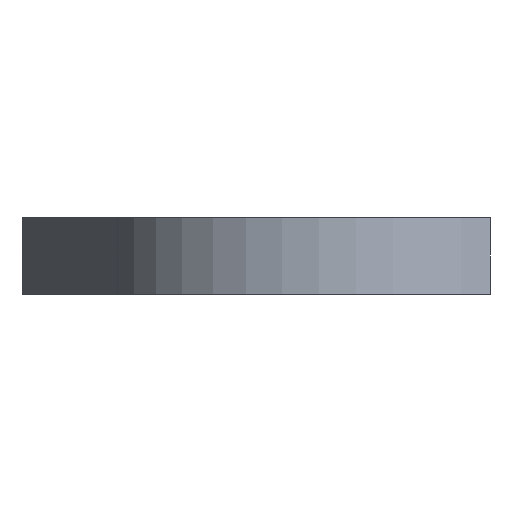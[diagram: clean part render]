
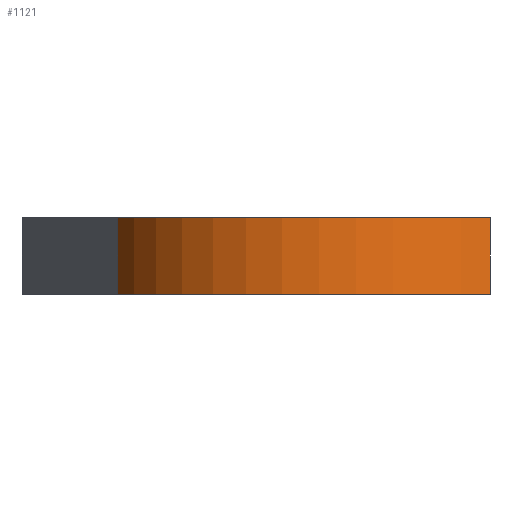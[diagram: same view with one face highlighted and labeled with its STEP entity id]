
A CAD part, left-side view. The second image highlights one B-rep face of the part: STEP entity #1121.
In plain terms, the highlighted cylindrical face has radius 4.794 mm (diameter 9.587 mm), a partial arc.
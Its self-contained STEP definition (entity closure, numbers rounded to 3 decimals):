
#55 = PLANE('',#56);
#56 = AXIS2_PLACEMENT_3D('',#57,#58,#59);
#57 = CARTESIAN_POINT('',(-11.367,2.875,0.));
#58 = DIRECTION('',(-0.406,0.914,0.));
#59 = DIRECTION('',(0.914,0.406,0.));
#83 = PLANE('',#84);
#84 = AXIS2_PLACEMENT_3D('',#85,#86,#87);
#85 = CARTESIAN_POINT('',(0.003,-0.53,1.6));
#86 = DIRECTION('',(-0.,-0.,-1.));
#87 = DIRECTION('',(-1.,0.,0.));
#137 = PLANE('',#138);
#138 = AXIS2_PLACEMENT_3D('',#139,#140,#141);
#139 = CARTESIAN_POINT('',(0.003,-0.53,0.));
#140 = DIRECTION('',(-0.,-0.,-1.));
#141 = DIRECTION('',(-1.,0.,0.));
#152 = EDGE_CURVE('',#153,#155,#157,.T.);
#153 = VERTEX_POINT('',#154);
#154 = CARTESIAN_POINT('',(-11.367,2.875,0.));
#155 = VERTEX_POINT('',#156);
#156 = CARTESIAN_POINT('',(-11.367,2.875,1.6));
#157 = SURFACE_CURVE('',#158,(#162,#169),.PCURVE_S1.);
#158 = LINE('',#159,#160);
#159 = CARTESIAN_POINT('',(-11.367,2.875,0.));
#160 = VECTOR('',#161,1.);
#161 = DIRECTION('',(0.,0.,1.));
#162 = PCURVE('',#55,#163);
#163 = DEFINITIONAL_REPRESENTATION('',(#164),#168);
#164 = LINE('',#165,#166);
#165 = CARTESIAN_POINT('',(0.,0.));
#166 = VECTOR('',#167,1.);
#167 = DIRECTION('',(0.,-1.));
#168 = ( GEOMETRIC_REPRESENTATION_CONTEXT(2) 
PARAMETRIC_REPRESENTATION_CONTEXT() REPRESENTATION_CONTEXT('2D SPACE',''
  ) );
#169 = PCURVE('',#170,#175);
#170 = CYLINDRICAL_SURFACE('',#171,4.794);
#171 = AXIS2_PLACEMENT_3D('',#172,#173,#174);
#172 = CARTESIAN_POINT('',(-9.625,-1.591,0.));
#173 = DIRECTION('',(-0.,-0.,-1.));
#174 = DIRECTION('',(1.,0.,-0.));
#175 = DEFINITIONAL_REPRESENTATION('',(#176),#180);
#176 = LINE('',#177,#178);
#177 = CARTESIAN_POINT('',(-1.943,0.));
#178 = VECTOR('',#179,1.);
#179 = DIRECTION('',(-0.,-1.));
#180 = ( GEOMETRIC_REPRESENTATION_CONTEXT(2) 
PARAMETRIC_REPRESENTATION_CONTEXT() REPRESENTATION_CONTEXT('2D SPACE',''
  ) );
#335 = VERTEX_POINT('',#336);
#336 = CARTESIAN_POINT('',(-13.117,-4.875,0.));
#350 = PLANE('',#351);
#351 = AXIS2_PLACEMENT_3D('',#352,#353,#354);
#352 = CARTESIAN_POINT('',(13.133,-4.875,0.));
#353 = DIRECTION('',(0.,-1.,0.));
#354 = DIRECTION('',(-1.,0.,0.));
#362 = EDGE_CURVE('',#153,#335,#363,.T.);
#363 = SURFACE_CURVE('',#364,(#369,#380),.PCURVE_S1.);
#364 = CIRCLE('',#365,4.794);
#365 = AXIS2_PLACEMENT_3D('',#366,#367,#368);
#366 = CARTESIAN_POINT('',(-9.625,-1.591,0.));
#367 = DIRECTION('',(0.,0.,1.));
#368 = DIRECTION('',(1.,0.,-0.));
#369 = PCURVE('',#137,#370);
#370 = DEFINITIONAL_REPRESENTATION('',(#371),#379);
#371 = ( BOUNDED_CURVE() B_SPLINE_CURVE(2,(#372,#373,#374,#375,#376,#377
,#378),.UNSPECIFIED.,.T.,.F.) B_SPLINE_CURVE_WITH_KNOTS((1,2,2,2,2,1),(
    -2.094,0.,2.094,4.189,6.283,
8.378),.UNSPECIFIED.) CURVE() GEOMETRIC_REPRESENTATION_ITEM() 
RATIONAL_B_SPLINE_CURVE((1.,0.5,1.,0.5,1.,0.5,1.)) REPRESENTATION_ITEM(
  '') );
#372 = CARTESIAN_POINT('',(4.834,-1.061));
#373 = CARTESIAN_POINT('',(4.834,7.242));
#374 = CARTESIAN_POINT('',(12.025,3.09));
#375 = CARTESIAN_POINT('',(19.216,-1.061));
#376 = CARTESIAN_POINT('',(12.025,-5.212));
#377 = CARTESIAN_POINT('',(4.834,-9.364));
#378 = CARTESIAN_POINT('',(4.834,-1.061));
#379 = ( GEOMETRIC_REPRESENTATION_CONTEXT(2) 
PARAMETRIC_REPRESENTATION_CONTEXT() REPRESENTATION_CONTEXT('2D SPACE',''
  ) );
#380 = PCURVE('',#170,#381);
#381 = DEFINITIONAL_REPRESENTATION('',(#382),#386);
#382 = LINE('',#383,#384);
#383 = CARTESIAN_POINT('',(-0.,0.));
#384 = VECTOR('',#385,1.);
#385 = DIRECTION('',(-1.,0.));
#386 = ( GEOMETRIC_REPRESENTATION_CONTEXT(2) 
PARAMETRIC_REPRESENTATION_CONTEXT() REPRESENTATION_CONTEXT('2D SPACE',''
  ) );
#773 = VERTEX_POINT('',#774);
#774 = CARTESIAN_POINT('',(-13.117,-4.875,1.6));
#795 = EDGE_CURVE('',#155,#773,#796,.T.);
#796 = SURFACE_CURVE('',#797,(#802,#813),.PCURVE_S1.);
#797 = CIRCLE('',#798,4.794);
#798 = AXIS2_PLACEMENT_3D('',#799,#800,#801);
#799 = CARTESIAN_POINT('',(-9.625,-1.591,1.6));
#800 = DIRECTION('',(0.,0.,1.));
#801 = DIRECTION('',(1.,0.,-0.));
#802 = PCURVE('',#83,#803);
#803 = DEFINITIONAL_REPRESENTATION('',(#804),#812);
#804 = ( BOUNDED_CURVE() B_SPLINE_CURVE(2,(#805,#806,#807,#808,#809,#810
,#811),.UNSPECIFIED.,.T.,.F.) B_SPLINE_CURVE_WITH_KNOTS((1,2,2,2,2,1),(
    -2.094,0.,2.094,4.189,6.283,
8.378),.UNSPECIFIED.) CURVE() GEOMETRIC_REPRESENTATION_ITEM() 
RATIONAL_B_SPLINE_CURVE((1.,0.5,1.,0.5,1.,0.5,1.)) REPRESENTATION_ITEM(
  '') );
#805 = CARTESIAN_POINT('',(4.834,-1.061));
#806 = CARTESIAN_POINT('',(4.834,7.242));
#807 = CARTESIAN_POINT('',(12.025,3.09));
#808 = CARTESIAN_POINT('',(19.216,-1.061));
#809 = CARTESIAN_POINT('',(12.025,-5.212));
#810 = CARTESIAN_POINT('',(4.834,-9.364));
#811 = CARTESIAN_POINT('',(4.834,-1.061));
#812 = ( GEOMETRIC_REPRESENTATION_CONTEXT(2) 
PARAMETRIC_REPRESENTATION_CONTEXT() REPRESENTATION_CONTEXT('2D SPACE',''
  ) );
#813 = PCURVE('',#170,#814);
#814 = DEFINITIONAL_REPRESENTATION('',(#815),#819);
#815 = LINE('',#816,#817);
#816 = CARTESIAN_POINT('',(-0.,-1.6));
#817 = VECTOR('',#818,1.);
#818 = DIRECTION('',(-1.,0.));
#819 = ( GEOMETRIC_REPRESENTATION_CONTEXT(2) 
PARAMETRIC_REPRESENTATION_CONTEXT() REPRESENTATION_CONTEXT('2D SPACE',''
  ) );
#1121 = ADVANCED_FACE('',(#1122),#170,.T.);
#1122 = FACE_BOUND('',#1123,.F.);
#1123 = EDGE_LOOP('',(#1124,#1125,#1126,#1147));
#1124 = ORIENTED_EDGE('',*,*,#152,.T.);
#1125 = ORIENTED_EDGE('',*,*,#795,.T.);
#1126 = ORIENTED_EDGE('',*,*,#1127,.F.);
#1127 = EDGE_CURVE('',#335,#773,#1128,.T.);
#1128 = SURFACE_CURVE('',#1129,(#1133,#1140),.PCURVE_S1.);
#1129 = LINE('',#1130,#1131);
#1130 = CARTESIAN_POINT('',(-13.117,-4.875,0.));
#1131 = VECTOR('',#1132,1.);
#1132 = DIRECTION('',(0.,0.,1.));
#1133 = PCURVE('',#170,#1134);
#1134 = DEFINITIONAL_REPRESENTATION('',(#1135),#1139);
#1135 = LINE('',#1136,#1137);
#1136 = CARTESIAN_POINT('',(-3.896,0.));
#1137 = VECTOR('',#1138,1.);
#1138 = DIRECTION('',(-0.,-1.));
#1139 = ( GEOMETRIC_REPRESENTATION_CONTEXT(2) 
PARAMETRIC_REPRESENTATION_CONTEXT() REPRESENTATION_CONTEXT('2D SPACE',''
  ) );
#1140 = PCURVE('',#350,#1141);
#1141 = DEFINITIONAL_REPRESENTATION('',(#1142),#1146);
#1142 = LINE('',#1143,#1144);
#1143 = CARTESIAN_POINT('',(26.25,0.));
#1144 = VECTOR('',#1145,1.);
#1145 = DIRECTION('',(0.,-1.));
#1146 = ( GEOMETRIC_REPRESENTATION_CONTEXT(2) 
PARAMETRIC_REPRESENTATION_CONTEXT() REPRESENTATION_CONTEXT('2D SPACE',''
  ) );
#1147 = ORIENTED_EDGE('',*,*,#362,.F.);
